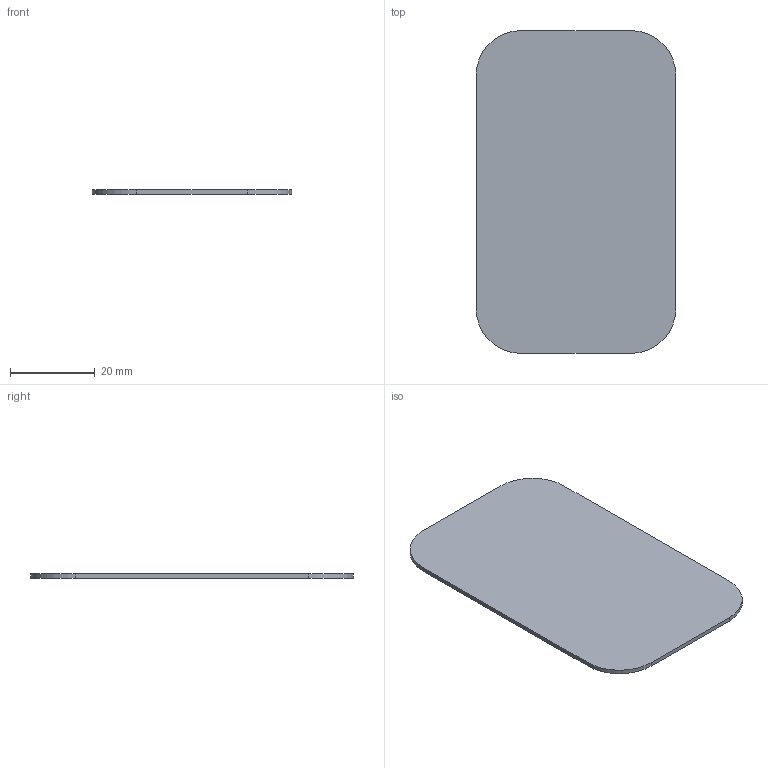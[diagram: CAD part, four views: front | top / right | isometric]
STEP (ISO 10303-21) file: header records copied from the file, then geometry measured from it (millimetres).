
FILE_DESCRIPTION(('FreeCAD Model'),'2;1');
FILE_NAME('Open CASCADE Shape Model','2026-09-21T09:26:54',('FreeCAD'),( 'FreeCAD'),'Open CASCADE STEP processor 7.8','FreeCAD','Unknown');
FILE_SCHEMA(('AUTOMOTIVE_DESIGN { 1 0 10303 214 1 1 1 1 }'));
Length unit declared in the file: millimetre
Products named in the file (1): Open CASCADE STEP translator 7.8 6
Bounding box: 47 x 76 x 1 mm (x, y, z)
Volume: 3477.4 mm3; surface area: 7182.7 mm2
Topology: 1 solids, 1 shells, 10 faces, 24 edges, 16 vertices
Faces by surface type: plane 6, cylinder 4
Entity records: 306 total; most frequent: DIRECTION 54, CARTESIAN_POINT 51, ORIENTED_EDGE 48, EDGE_CURVE 24, AXIS2_PLACEMENT_3D 19, VERTEX_POINT 16, LINE 16, VECTOR 16
